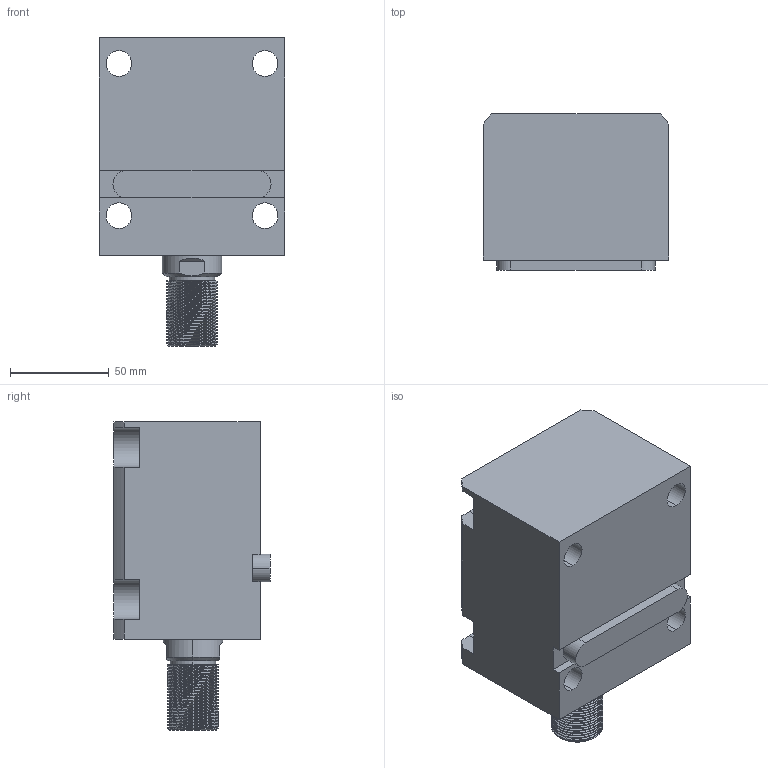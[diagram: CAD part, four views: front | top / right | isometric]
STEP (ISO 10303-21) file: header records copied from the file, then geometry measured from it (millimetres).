
FILE_DESCRIPTION (( 'STEP AP203' ), '1' );
FILE_NAME ('CHTB-LA50-50W.STEP', '2018-05-18T01:34:50', ( '' ), ( '' ), 'SwSTEP 2.0', 'SolidWorks 2015', '' );
FILE_SCHEMA (( 'CONFIG_CONTROL_DESIGN' ));
Length unit declared in the file: millimetre
Products named in the file (4): 活塞杆LA50-50W; CHTB-LA50-50W; CHTM-SDMA50QG; 掛极LA50-50W
Assembly tree (3 placements, depth 2):
  CHTB-LA50-50W
    掛极LA50-50W
    活塞杆LA50-50W
    CHTM-SDMA50QG
Bounding box: 94 x 79 x 156 mm (x, y, z)
Volume: 672418.3 mm3; surface area: 115893.3 mm2
Topology: 3 solids, 3 shells, 244 faces, 670 edges, 447 vertices
Faces by surface type: cylinder 136, plane 55, cone 21, bspline 16, torus 16
Entity records: 15046 total; most frequent: CARTESIAN_POINT 8903, ORIENTED_EDGE 1332, DIRECTION 1073, EDGE_CURVE 666, VERTEX_POINT 447, AXIS2_PLACEMENT_3D 416, EDGE_LOOP 277, FACE_OUTER_BOUND 244
